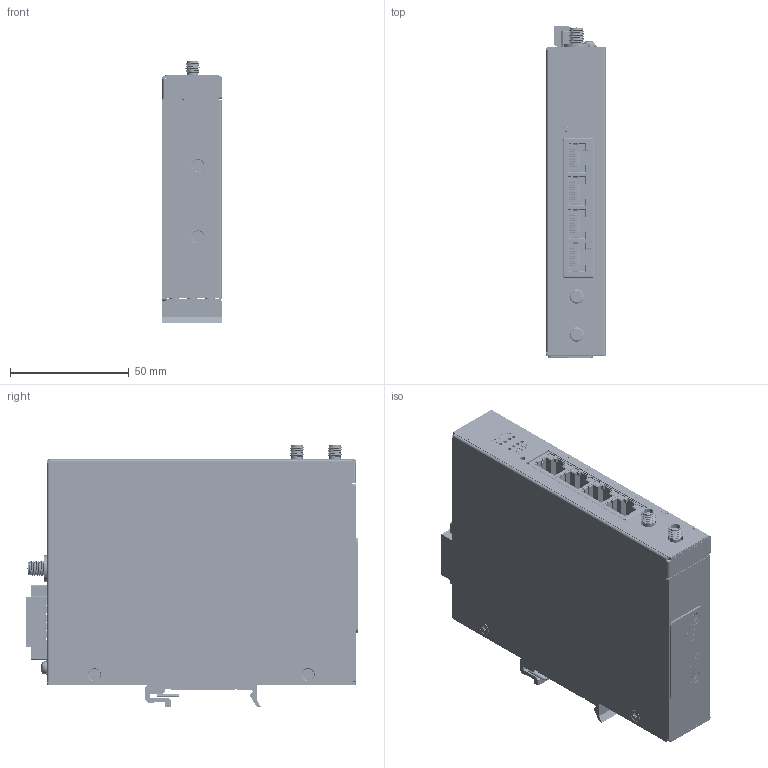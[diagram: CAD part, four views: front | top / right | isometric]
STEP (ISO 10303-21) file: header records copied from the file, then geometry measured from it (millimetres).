
FILE_DESCRIPTION (( 'STEP AP214' ), '1' );
FILE_NAME ('ICR-25xxW_DIN_holder.STEP', '2024-10-03T13:25:16', ( '' ), ( '' ), 'SwSTEP 2.0', 'SolidWorks 2024', '' );
FILE_SCHEMA (( 'AUTOMOTIVE_DESIGN' ));
Length unit declared in the file: millimetre
Products named in the file (33): ICR-2500_FRONT_Label; Pin_Header_5x2P; Plug-In_Block_1x6P; SIM7155-6-1-14-A_PART1; Micro_SIM_ card_Connector; SIM7155-6-1-14-A_PART2; SCR_BK_M3_L5_PH_FL_TW; BTB_20P_Connector; PCB-WIFI-20(4,5,6)xx; DIN_25_AL; VMC-2022-04-1_Label - Insert SIM carefully; PUSH_SW_3P; SCR_BK_M3_L5_PH_FL_TW_GLUE; ICR-25xxW_DIN_holder; SMA_1P; B-ICR-WIFI-20(4,5,6)xx-A107-1; VMC-2022-04-1_Label - Insert SIM carefully_A; Plate_for_SIM_ICR-2(0,4,5,6)xx; RJ45_1x4_8p_Connector; SMA_5P_Connector; B-ICR25xx A103-1; VMC-2022-04-1_Label - Insert SIM carefully_B; Cover_for_ICR_25xx; SCR_ZC_M3_L6_PH_PW; Chassis_for_ICR-25xx(G_W); SCR_ZC_M3_L10_PH_BN; Terminal_Block_1x6P; LED_HOLDER_GGGG; Post_D3xL5; SCR_ZC_M3_L6_PH_PW_2; PCB_ICR-25(6)xx; BTB_20P_Conn; Washer_V2i_AUX_W
Assembly tree (44 placements, depth 4):
  ICR-25xxW_DIN_holder
    B-ICR25xx A103-1
      PCB_ICR-25(6)xx
      Micro_SIM_ card_Connector  x2
        SIM7155-6-1-14-A_PART1
        SIM7155-6-1-14-A_PART2
      Terminal_Block_1x6P
      RJ45_1x4_8p_Connector
      PUSH_SW_3P
      LED_HOLDER_GGGG  x2
      SMA_5P_Connector  x2
      Pin_Header_5x2P
      BTB_20P_Connector
    B-ICR-WIFI-20(4,5,6)xx-A107-1
      PCB-WIFI-20(4,5,6)xx
      BTB_20P_Conn
      SMA_1P
      Post_D3xL5
    Chassis_for_ICR-25xx(G_W)
    Cover_for_ICR_25xx
    Plate_for_SIM_ICR-2(0,4,5,6)xx
    Washer_V2i_AUX_W
    Plug-In_Block_1x6P
    ICR-2500_FRONT_Label
    VMC-2022-04-1_Label - Insert SIM carefully
      VMC-2022-04-1_Label - Insert SIM carefully_A
      VMC-2022-04-1_Label - Insert SIM carefully_B
    SCR_BK_M3_L5_PH_FL_TW  x5
    SCR_BK_M3_L5_PH_FL_TW_GLUE  x4
    SCR_ZC_M3_L6_PH_PW_2
    SCR_ZC_M3_L6_PH_PW  x3
    SCR_ZC_M3_L10_PH_BN
    DIN_25_AL
Bounding box: 25 x 139.9 x 110.35 mm (x, y, z)
Volume: 69509.6 mm3; surface area: 146472.8 mm2
Topology: 246 solids, 256 shells, 18567 faces, 50455 edges, 32296 vertices
Faces by surface type: plane 13374, cylinder 3663, bspline 944, cone 303, sphere 184, torus 99
Entity records: 706586 total; most frequent: CARTESIAN_POINT 148704, ORIENTED_EDGE 90430, DIRECTION 81592, EDGE_CURVE 45218, VECTOR 36506, LINE 36506, VERTEX_POINT 28988, AXIS2_PLACEMENT_3D 22543
